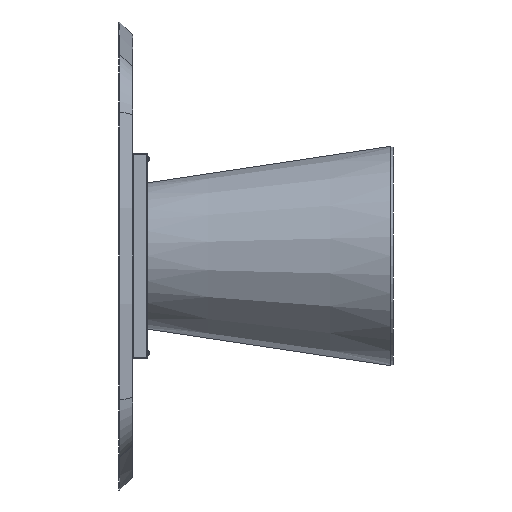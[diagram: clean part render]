
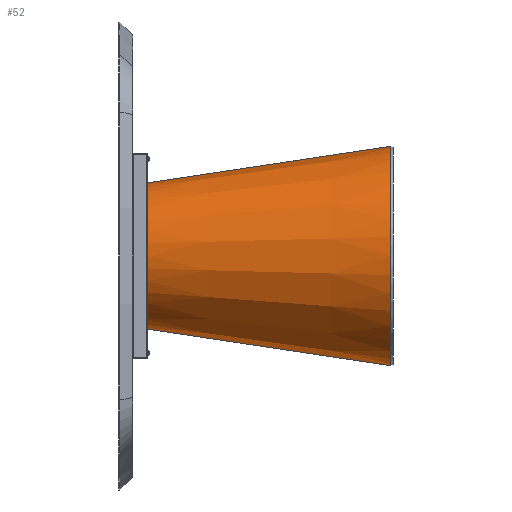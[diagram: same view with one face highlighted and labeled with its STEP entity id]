
A CAD part, left-side view. The second image highlights one B-rep face of the part: STEP entity #52.
In plain terms, the highlighted conical face has half-angle 8.552 degrees and reference radius 200 mm.
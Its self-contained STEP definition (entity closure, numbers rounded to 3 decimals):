
#52 = ADVANCED_FACE ( 'NONE', ( #9393 ), #605, .T. ) ;
#135 = AXIS2_PLACEMENT_3D ( 'NONE', #3345, #3015, #8226 ) ;
#163 = EDGE_LOOP ( 'NONE', ( #4526, #2593, #14252, #640 ) ) ;
#605 = CONICAL_SURFACE ( 'NONE', #135, 200., 0.149 ) ;
#640 = ORIENTED_EDGE ( 'NONE', *, *, #9095, .T. ) ;
#920 = VERTEX_POINT ( 'NONE', #6823 ) ;
#1890 = LINE ( 'NONE', #5186, #11994 ) ;
#1973 = EDGE_CURVE ( 'NONE', #14827, #920, #6034, .T. ) ;
#2119 = AXIS2_PLACEMENT_3D ( 'NONE', #4639, #8063, #3480 ) ;
#2451 = EDGE_CURVE ( 'NONE', #14827, #13886, #4537, .T. ) ;
#2593 = ORIENTED_EDGE ( 'NONE', *, *, #1973, .F. ) ;
#3015 = DIRECTION ( 'NONE',  ( 0., -1., 0. ) ) ;
#3243 = CARTESIAN_POINT ( 'NONE',  ( 0., 8., 300. ) ) ;
#3345 = CARTESIAN_POINT ( 'NONE',  ( 0., 673., 0. ) ) ;
#3480 = DIRECTION ( 'NONE',  ( 0., 0., 1. ) ) ;
#4526 = ORIENTED_EDGE ( 'NONE', *, *, #12698, .F. ) ;
#4537 = LINE ( 'NONE', #13695, #9954 ) ;
#4639 = CARTESIAN_POINT ( 'NONE',  ( 0., 673., 0. ) ) ;
#5186 = CARTESIAN_POINT ( 'NONE',  ( 0., 673., 200. ) ) ;
#5750 = DIRECTION ( 'NONE',  ( 0., -0.989, -0.149 ) ) ;
#6034 = CIRCLE ( 'NONE', #2119, 200. ) ;
#6345 = DIRECTION ( 'NONE',  ( 0., 0., 1. ) ) ;
#6555 = DIRECTION ( 'NONE',  ( 0., -0.989, 0.149 ) ) ;
#6823 = CARTESIAN_POINT ( 'NONE',  ( 0., 673., 200. ) ) ;
#6834 = CARTESIAN_POINT ( 'NONE',  ( 0., 8., -300. ) ) ;
#8063 = DIRECTION ( 'NONE',  ( 0., 1., 0. ) ) ;
#8226 = DIRECTION ( 'NONE',  ( 0., 0., -1. ) ) ;
#8707 = AXIS2_PLACEMENT_3D ( 'NONE', #10959, #9728, #6345 ) ;
#9095 = EDGE_CURVE ( 'NONE', #13886, #14373, #13343, .T. ) ;
#9393 = FACE_OUTER_BOUND ( 'NONE', #163, .T. ) ;
#9728 = DIRECTION ( 'NONE',  ( 0., 1., 0. ) ) ;
#9954 = VECTOR ( 'NONE', #5750, 1000. ) ;
#10266 = CARTESIAN_POINT ( 'NONE',  ( 0., 673., -200. ) ) ;
#10959 = CARTESIAN_POINT ( 'NONE',  ( 0., 8., 0. ) ) ;
#11994 = VECTOR ( 'NONE', #6555, 1000. ) ;
#12698 = EDGE_CURVE ( 'NONE', #920, #14373, #1890, .T. ) ;
#13343 = CIRCLE ( 'NONE', #8707, 300. ) ;
#13695 = CARTESIAN_POINT ( 'NONE',  ( 0., 673., -200. ) ) ;
#13886 = VERTEX_POINT ( 'NONE', #6834 ) ;
#14252 = ORIENTED_EDGE ( 'NONE', *, *, #2451, .T. ) ;
#14373 = VERTEX_POINT ( 'NONE', #3243 ) ;
#14827 = VERTEX_POINT ( 'NONE', #10266 ) ;
